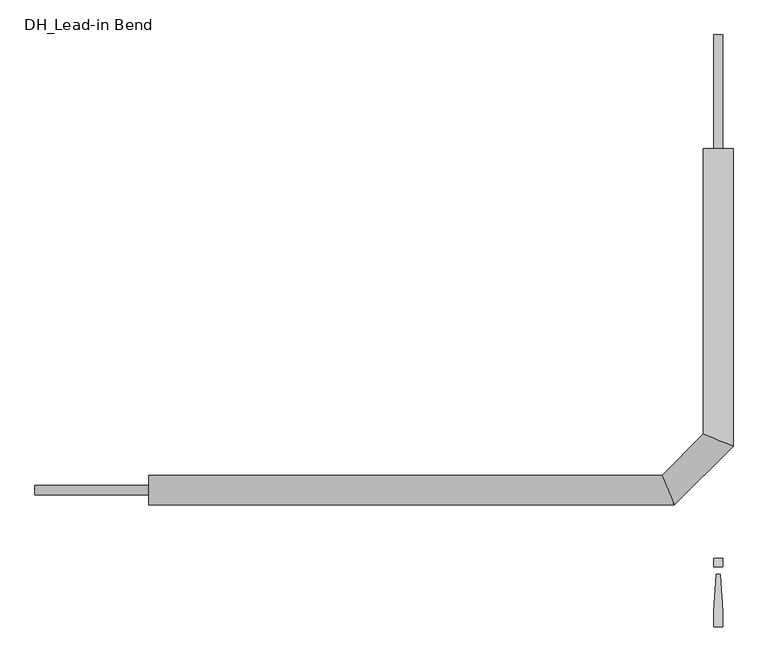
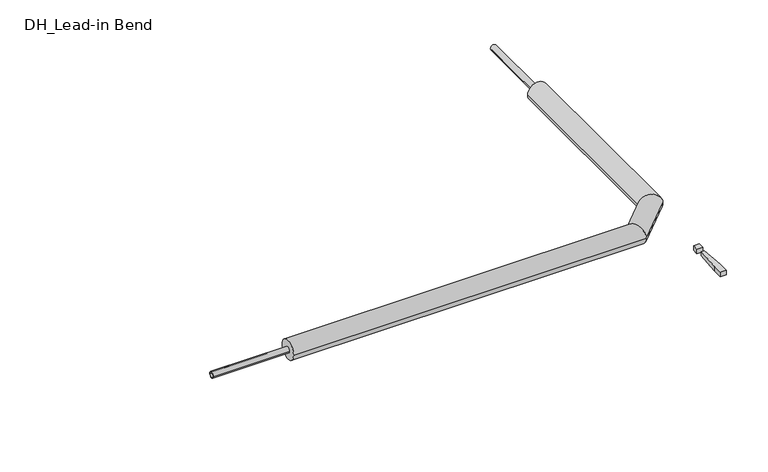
"""IFC4 building model written with IfcOpenShell, lengths in millimetres: pipe fitting geometry, DH_Lead-in Bend : INSULPEX UNO 7.4 DW."""

from ifc_helpers import new_model, si_unit, point, frame, origin, origin_with_axes, origin_2d, place, context, project, spatial, polyline, circle_curve, ellipse_curve, trimmed, segment, composite_curve, outline, extrude, source, transform, mapped, element, save
from ifc_brep_helpers import plane_surface, cylinder_surface, advanced_brep


def dh_lead_in_bend_cfb21f70(model_context):
    return source(origin(), model_context, "Body", "SolidModel", [
        advanced_brep(
        [(-1250.0, -32.5, 0.0), (-1250.0, 32.5, 0.0), (-96.5380592, -32.5, 0.0), (-123.4619408, 32.5, 0.0), (32.5, 750.0, 0.0), (-32.5, 750.0, 0.0), (-32.5, 123.4619408, 0.0), (32.5, 96.5380592, 0.0)],
        [
            (0, 1, circle_curve(frame((-1250.0, 0.0, 0.0), z_axis=(-1.0, 0.0, 0.0), x_axis=(0.0, 1.0, 0.0)), 32.5)),
            (1, 0, circle_curve(frame((-1250.0, 0.0, 0.0), z_axis=(-1.0, 0.0, 0.0), x_axis=(0.0, 1.0, 0.0)), 32.5)),
            (0, 2),
            (2, 3, ellipse_curve(frame((-110.0, 0.0, 0.0), z_axis=(-0.9238795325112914, -0.3826834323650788, 0.0), x_axis=(-0.38268343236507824, 0.9238795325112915, 0.0)), 35.1777465, 32.5)),
            (3, 1),
            (3, 2, ellipse_curve(frame((-110.0, 0.0, 0.0), z_axis=(-0.9238795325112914, -0.3826834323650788, 0.0), x_axis=(-0.38268343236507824, 0.9238795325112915, 0.0)), 35.1777465, 32.5)),
            (4, 5, circle_curve(frame((0.0, 750.0, 0.0), z_axis=(0.0, 1.0, 0.0), x_axis=(-1.0, 0.0, 0.0)), 32.5)),
            (5, 4, circle_curve(frame((0.0, 750.0, 0.0), z_axis=(0.0, 1.0, 0.0), x_axis=(-1.0, 0.0, 0.0)), 32.5)),
            (6, 7, ellipse_curve(frame((0.0, 110.0, 0.0), z_axis=(0.38268343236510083, 0.9238795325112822, 0.0), x_axis=(0.9238795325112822, -0.3826834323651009, 0.0)), 35.1777465, 32.5)),
            (7, 4),
            (5, 6),
            (7, 6, ellipse_curve(frame((0.0, 110.0, 0.0), z_axis=(0.38268343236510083, 0.9238795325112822, 0.0), x_axis=(0.9238795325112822, -0.3826834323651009, 0.0)), 35.1777465, 32.5)),
            (2, 7),
            (6, 3),
        ],
        [
            plane_surface(frame((-1250.0, 0.0, 0.0), z_axis=(-1.0, 0.0, 0.0), x_axis=(0.0, 0.0, 1.0))),
            cylinder_surface(frame((-1250.0, 0.0, 0.0), z_axis=(-1.0, 0.0, 0.0), x_axis=(0.0, 1.0, 0.0)), 32.5),
            plane_surface(frame((0.0, 750.0, 0.0), z_axis=(0.0, 1.0, 0.0), x_axis=(0.0, 0.0, 1.0))),
            cylinder_surface(frame((0.0, 110.0, 0.0), z_axis=(0.0, -1.0, 0.0), x_axis=(-1.0, 0.0, 0.0)), 32.5),
            cylinder_surface(frame((-110.0, 0.0, 0.0), z_axis=(-0.7071067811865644, -0.7071067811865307, 0.0), x_axis=(-0.7071067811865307, 0.7071067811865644, 0.0)), 32.5),
        ],
        [
            (0, [[1, 2]]),
            (1, [[-1, 3, 4, 5]]),
            (1, [[-2, -5, 6, -3]]),
            (2, [[7, 8]]),
            (3, [[9, 10, -8, 11]]),
            (3, [[12, -11, -7, -10]]),
            (4, [[-4, 13, -9, 14]]),
            (4, [[-6, -14, -12, -13]]),
        ],
    ),
        extrude(outline(polyline([(4.7088895, -185.3166715), (9.4177791, -266.6553807), (9.4177791, -300.6844652), (-9.4177791, -300.6844652), (-9.4177791, -266.6553807), (-4.7088895, -185.3166715), (4.7088895, -185.3166715)])), origin_with_axes(), (0.0, 0.0, 1.0), 15.0),
        extrude(outline(polyline([(9.4177791, -150.0), (9.4177791, -168.8355582), (-9.4177791, -168.8355582), (-9.4177791, -150.0), (9.4177791, -150.0)])), origin_with_axes(), (0.0, 0.0, 1.0), 15.0),
        extrude(outline(composite_curve([segment(trimmed(circle_curve(origin_2d(), 10.0), [point((-10.0, 0.0))], [point((10.0, 0.0))], False, "CARTESIAN"), True, "CONTINUOUS"), segment(trimmed(circle_curve(origin_2d(), 10.0), [point((10.0, 0.0))], [point((-10.0, 0.0))], False, "CARTESIAN"), True, "CONTINUOUS")], self_intersect=False), holes=[composite_curve([segment(trimmed(circle_curve(origin_2d(), 7.2), [point((-7.2, 0.0))], [point((7.2, 0.0))], True, "CARTESIAN"), True, "CONTINUOUS"), segment(trimmed(circle_curve(origin_2d(), 7.2), [point((7.2, 0.0))], [point((-7.2, 0.0))], True, "CARTESIAN"), True, "CONTINUOUS")], self_intersect=False)]), frame((-1500.0, 0.0, 0.0), z_axis=(1.0, 0.0, 0.0), x_axis=(0.0, 1.0, 0.0)), (0.0, 0.0, 1.0), 250.0),
        extrude(outline(composite_curve([segment(trimmed(circle_curve(origin_2d(), 10.0), [point((0.0, 10.0))], [point((0.0, -10.0))], False, "CARTESIAN"), True, "CONTINUOUS"), segment(trimmed(circle_curve(origin_2d(), 10.0), [point((0.0, -10.0))], [point((0.0, 10.0))], False, "CARTESIAN"), True, "CONTINUOUS")], self_intersect=False), holes=[composite_curve([segment(trimmed(circle_curve(origin_2d(), 7.2), [point((0.0, 7.2))], [point((0.0, -7.2))], True, "CARTESIAN"), True, "CONTINUOUS"), segment(trimmed(circle_curve(origin_2d(), 7.2), [point((0.0, -7.2))], [point((0.0, 7.2))], True, "CARTESIAN"), True, "CONTINUOUS")], self_intersect=False)]), frame((0.0, 750.0, 0.0), z_axis=(0.0, 1.0, 0.0), x_axis=(0.0, 0.0, 1.0)), (0.0, 0.0, 1.0), 250.0),
    ])


if __name__ == "__main__":
    model = new_model("IFC4")
    model_context = context("Model", 3, world=origin())
    ifc_project = project(units=[si_unit("LENGTHUNIT", "METRE", prefix="MILLI")], contexts=[model_context])
    site = spatial("IfcSite", under=ifc_project)
    building = spatial("IfcBuilding", under=site)
    placement = place(None, origin())
    dh_lead_in_bend_shape = dh_lead_in_bend_cfb21f70(model_context)
    element("IfcPipeFitting", 1, ObjectType="DH_Lead-in Bend : INSULPEX UNO 7.4 DW", at=placement, inside=building, context=model_context, shape_type="MappedRepresentation", body=[
        mapped(dh_lead_in_bend_shape, transform((0.0, 0.0, 0.0), x_axis=(1.0, 0.0, 0.0), y_axis=(0.0, 1.0, 0.0), z_axis=(0.0, 0.0, 1.0))),
    ])
    save(model, "model.ifc")
